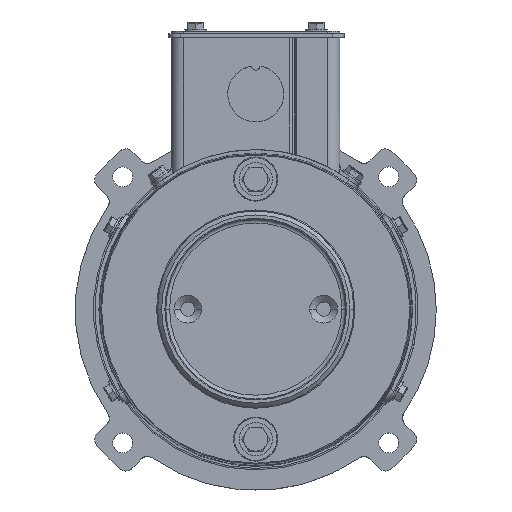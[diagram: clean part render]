
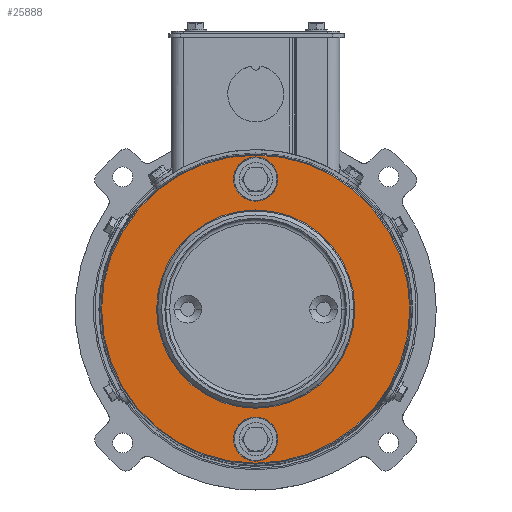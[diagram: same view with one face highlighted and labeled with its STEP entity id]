
A CAD part, top view. The second image highlights one B-rep face of the part: STEP entity #25888.
In plain terms, the highlighted planar face has unit normal (0, 0, 1).
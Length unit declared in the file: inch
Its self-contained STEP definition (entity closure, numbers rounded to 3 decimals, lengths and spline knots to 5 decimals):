
#313 = DIRECTION ( 'NONE',  ( 0., 0., 1. ) ) ;
#2724 = DIRECTION ( 'NONE',  ( 1., 0., 0. ) ) ;
#3568 = VERTEX_POINT ( 'NONE', #43354 ) ;
#4667 = CIRCLE ( 'NONE', #58368, 2.40596 ) ;
#4929 = EDGE_CURVE ( 'NONE', #46444, #3568, #31754, .T. ) ;
#5211 = DIRECTION ( 'NONE',  ( 0., 0., -1. ) ) ;
#5761 = EDGE_CURVE ( 'NONE', #52077, #14305, #25710, .T. ) ;
#7374 = CARTESIAN_POINT ( 'NONE',  ( -0.345, -2.03, 10.09356 ) ) ;
#7441 = EDGE_CURVE ( 'NONE', #14305, #52077, #13159, .T. ) ;
#9448 = AXIS2_PLACEMENT_3D ( 'NONE', #32663, #313, #37950 ) ;
#12736 = DIRECTION ( 'NONE',  ( 0., 0., 1. ) ) ;
#13159 = CIRCLE ( 'NONE', #20635, 1.54775 ) ;
#13655 = ORIENTED_EDGE ( 'NONE', *, *, #20615, .F. ) ;
#13788 = ORIENTED_EDGE ( 'NONE', *, *, #23618, .F. ) ;
#14305 = VERTEX_POINT ( 'NONE', #56600 ) ;
#14861 = ORIENTED_EDGE ( 'NONE', *, *, #32683, .F. ) ;
#15848 = CARTESIAN_POINT ( 'NONE',  ( 0., 0., 10.09356 ) ) ;
#15857 = CARTESIAN_POINT ( 'NONE',  ( 0., 1.53314, 10.09356 ) ) ;
#16110 = AXIS2_PLACEMENT_3D ( 'NONE', #66616, #34971, #2724 ) ;
#16227 = ORIENTED_EDGE ( 'NONE', *, *, #36538, .F. ) ;
#17450 = ORIENTED_EDGE ( 'NONE', *, *, #7441, .T. ) ;
#17664 = AXIS2_PLACEMENT_3D ( 'NONE', #15857, #5211, #42718 ) ;
#18005 = CARTESIAN_POINT ( 'NONE',  ( 0., 0., 10.09356 ) ) ;
#18824 = ORIENTED_EDGE ( 'NONE', *, *, #5761, .T. ) ;
#18892 = ORIENTED_EDGE ( 'NONE', *, *, #53049, .T. ) ;
#19510 = ORIENTED_EDGE ( 'NONE', *, *, #4929, .T. ) ;
#20615 = EDGE_CURVE ( 'NONE', #43266, #21884, #59162, .T. ) ;
#20635 = AXIS2_PLACEMENT_3D ( 'NONE', #55973, #55923, #55914 ) ;
#21884 = VERTEX_POINT ( 'NONE', #7374 ) ;
#23462 = DIRECTION ( 'NONE',  ( -1., 0., 0. ) ) ;
#23618 = EDGE_CURVE ( 'NONE', #21884, #43266, #42236, .T. ) ;
#24887 = AXIS2_PLACEMENT_3D ( 'NONE', #42779, #42553, #41646 ) ;
#25150 = CARTESIAN_POINT ( 'NONE',  ( -0.345, 2.03, 10.09356 ) ) ;
#25710 = CIRCLE ( 'NONE', #62283, 1.54775 ) ;
#25888 = ADVANCED_FACE ( 'NONE', ( #51131, #51198, #51399, #50594 ), #37368, .F. ) ;
#28601 = VERTEX_POINT ( 'NONE', #25150 ) ;
#30796 = AXIS2_PLACEMENT_3D ( 'NONE', #15848, #12736, #64842 ) ;
#31754 = CIRCLE ( 'NONE', #30796, 2.40596 ) ;
#32663 = CARTESIAN_POINT ( 'NONE',  ( 0., 2.03, 10.09356 ) ) ;
#32683 = EDGE_CURVE ( 'NONE', #58739, #28601, #57126, .T. ) ;
#34971 = DIRECTION ( 'NONE',  ( 0., 0., 1. ) ) ;
#35198 = CARTESIAN_POINT ( 'NONE',  ( 0.345, -2.03, 10.09356 ) ) ;
#36094 = CIRCLE ( 'NONE', #9448, 0.345 ) ;
#36538 = EDGE_CURVE ( 'NONE', #28601, #58739, #36094, .T. ) ;
#37368 = PLANE ( 'NONE',  #17664 ) ;
#37950 = DIRECTION ( 'NONE',  ( 1., 0., 0. ) ) ;
#38207 = CARTESIAN_POINT ( 'NONE',  ( 2.40596, 0., 10.09356 ) ) ;
#40950 = EDGE_LOOP ( 'NONE', ( #14861, #16227 ) ) ;
#41587 = DIRECTION ( 'NONE',  ( 1., 0., 0. ) ) ;
#41646 = DIRECTION ( 'NONE',  ( 1., 0., 0. ) ) ;
#41648 = DIRECTION ( 'NONE',  ( 0., 0., 1. ) ) ;
#41726 = CARTESIAN_POINT ( 'NONE',  ( 0., -2.03, 10.09356 ) ) ;
#42236 = CIRCLE ( 'NONE', #24887, 0.345 ) ;
#42553 = DIRECTION ( 'NONE',  ( 0., 0., 1. ) ) ;
#42718 = DIRECTION ( 'NONE',  ( -1., 0., 0. ) ) ;
#42779 = CARTESIAN_POINT ( 'NONE',  ( 0., -2.03, 10.09356 ) ) ;
#43266 = VERTEX_POINT ( 'NONE', #35198 ) ;
#43354 = CARTESIAN_POINT ( 'NONE',  ( -2.40596, 0., 10.09356 ) ) ;
#46444 = VERTEX_POINT ( 'NONE', #38207 ) ;
#47721 = CARTESIAN_POINT ( 'NONE',  ( 0.345, 2.03, 10.09356 ) ) ;
#49119 = EDGE_LOOP ( 'NONE', ( #13655, #13788 ) ) ;
#49254 = EDGE_LOOP ( 'NONE', ( #18892, #19510 ) ) ;
#50594 = FACE_OUTER_BOUND ( 'NONE', #49254, .T. ) ;
#51131 = FACE_BOUND ( 'NONE', #49119, .T. ) ;
#51198 = FACE_BOUND ( 'NONE', #40950, .T. ) ;
#51399 = FACE_BOUND ( 'NONE', #51629, .T. ) ;
#51629 = EDGE_LOOP ( 'NONE', ( #17450, #18824 ) ) ;
#52077 = VERTEX_POINT ( 'NONE', #63280 ) ;
#53049 = EDGE_CURVE ( 'NONE', #3568, #46444, #4667, .T. ) ;
#55233 = DIRECTION ( 'NONE',  ( 0., 0., 1. ) ) ;
#55914 = DIRECTION ( 'NONE',  ( -1., 0., 0. ) ) ;
#55923 = DIRECTION ( 'NONE',  ( 0., 0., -1. ) ) ;
#55973 = CARTESIAN_POINT ( 'NONE',  ( 0., 0., 10.09356 ) ) ;
#56600 = CARTESIAN_POINT ( 'NONE',  ( -1.54775, 0., 10.09356 ) ) ;
#57126 = CIRCLE ( 'NONE', #16110, 0.345 ) ;
#58368 = AXIS2_PLACEMENT_3D ( 'NONE', #18005, #55233, #23462 ) ;
#58739 = VERTEX_POINT ( 'NONE', #47721 ) ;
#59162 = CIRCLE ( 'NONE', #65457, 0.345 ) ;
#62283 = AXIS2_PLACEMENT_3D ( 'NONE', #65117, #65054, #64880 ) ;
#63280 = CARTESIAN_POINT ( 'NONE',  ( 1.54775, 0., 10.09356 ) ) ;
#64842 = DIRECTION ( 'NONE',  ( -1., 0., 0. ) ) ;
#64880 = DIRECTION ( 'NONE',  ( -1., 0., 0. ) ) ;
#65054 = DIRECTION ( 'NONE',  ( 0., 0., -1. ) ) ;
#65117 = CARTESIAN_POINT ( 'NONE',  ( 0., 0., 10.09356 ) ) ;
#65457 = AXIS2_PLACEMENT_3D ( 'NONE', #41726, #41648, #41587 ) ;
#66616 = CARTESIAN_POINT ( 'NONE',  ( 0., 2.03, 10.09356 ) ) ;
